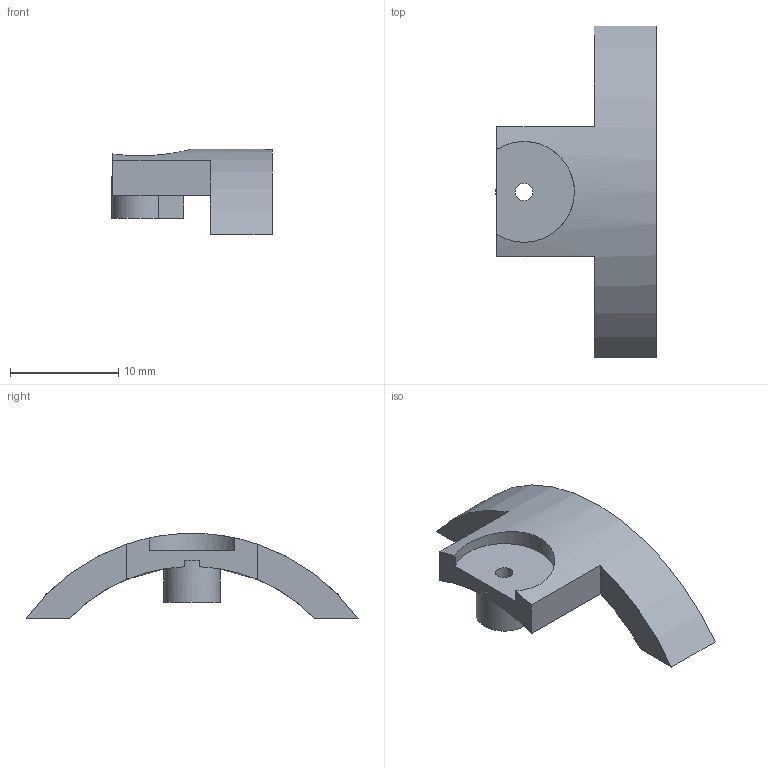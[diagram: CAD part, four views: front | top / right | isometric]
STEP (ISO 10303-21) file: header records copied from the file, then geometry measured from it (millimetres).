
FILE_DESCRIPTION(('SkyG Speed 90B - revision C6B-8 - 2026-10-10','HL2-hatch-lip-rear'),'2;1');
FILE_NAME('HL2-hatch-lip-rear_C6B-8','2026-10-10T23:18:29',('Author'),( 'Open CASCADE'),'Open CASCADE STEP processor 7.9','Open CASCADE 7.9' ,'Unknown');
FILE_SCHEMA(('AUTOMOTIVE_DESIGN { 1 0 10303 214 1 1 1 1 }'));
Length unit declared in the file: millimetre
Products named in the file (1): HL2-hatch-lip-rear C6B-8
Bounding box: 14.8 x 30.62 x 7.85 mm (x, y, z)
Volume: 853.5 mm3; surface area: 949.2 mm2
Topology: 1 solids, 1 shells, 18 faces, 48 edges, 32 vertices
Faces by surface type: plane 13, cylinder 5
Full cylindrical faces by diameter (mm): 1.6 x1
Entity records: 1556 total; most frequent: CARTESIAN_POINT 647, DIRECTION 149, ORIENTED_EDGE 96, PCURVE 96, DEFINITIONAL_REPRESENTATION 96, LINE 63, VECTOR 63, EDGE_CURVE 48
